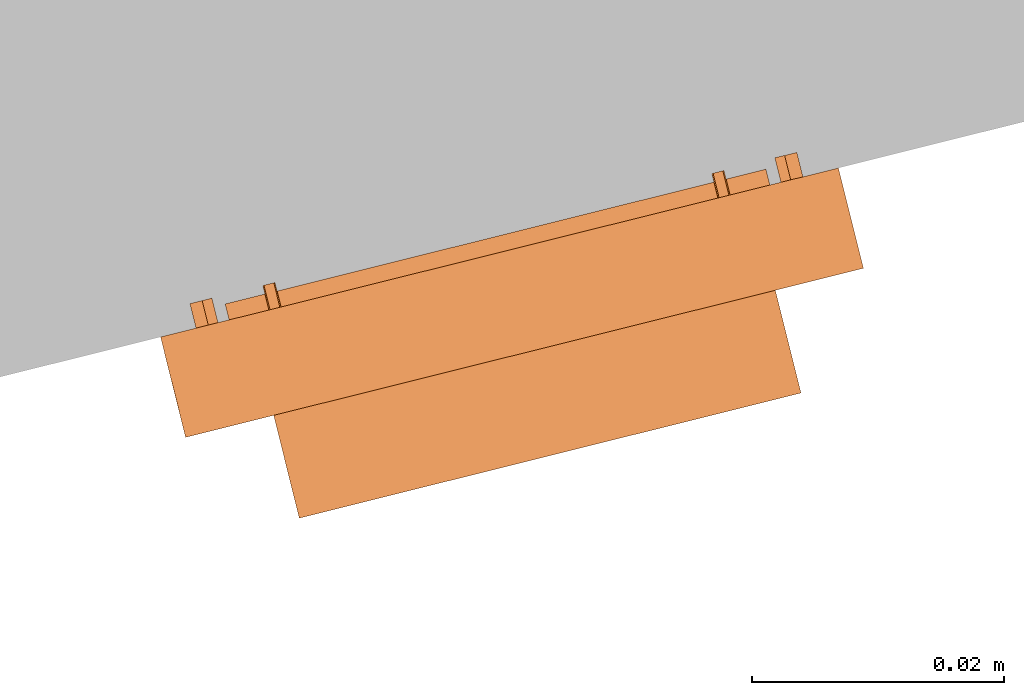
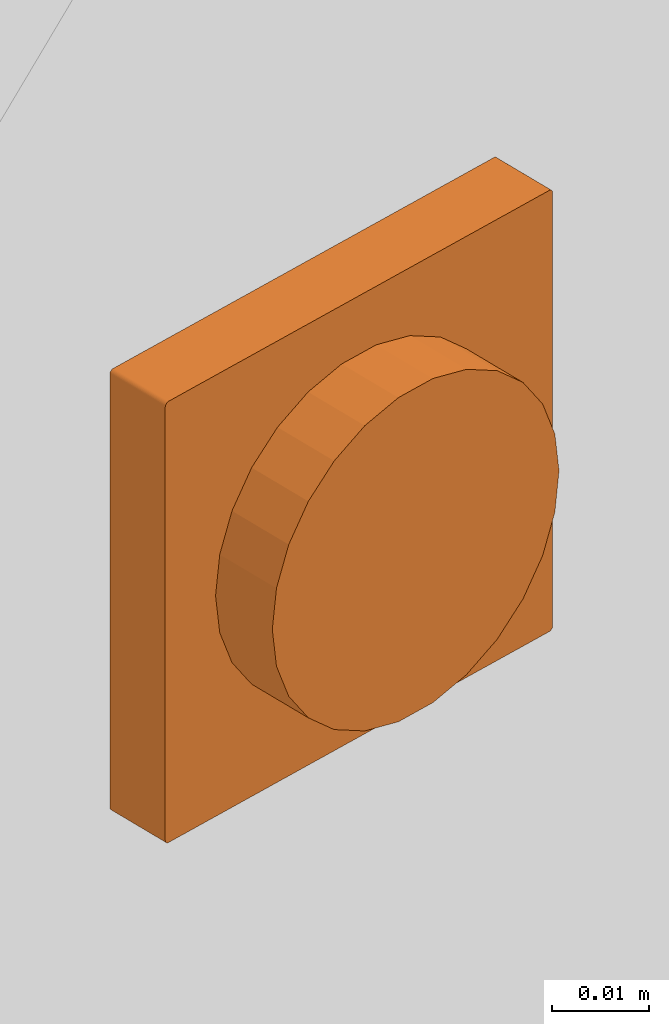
# One storey, part 2 of 2: 1 proxy.
"""IFC2X3 building model written with IfcOpenShell, lengths in metres."""

from ifc_helpers import new_model, entity, si_unit, converted_unit, derived_unit, direction, frame, frame_2d, origin, origin_2d_with_axis, place, context, subcontext, project, spatial, polyline, circle_curve, parameter, trimmed, segment, composite_curve, circle, outline, extrude, source, transform, mapped, material, type_object, type_shapes, element, save


model = new_model("IFC2X3")

# Units and contexts
model_context = context("Model", 3, precision=1e-05, world=origin(), true_north=direction((6.12303176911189e-17, 1.0)))
body_context = subcontext(model_context, "Body", "Model", "MODEL_VIEW")
ifc_project = project(units=[si_unit("LENGTHUNIT", "METRE"), si_unit("AREAUNIT", "SQUARE_METRE"), si_unit("VOLUMEUNIT", "CUBIC_METRE"), converted_unit("PLANEANGLEUNIT", "DEGREE", entity("IfcRatioMeasure", 0.0174532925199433), si_unit("PLANEANGLEUNIT", "RADIAN"), dimensions=[0, 0, 0, 0, 0, 0, 0]), si_unit("MASSUNIT", "GRAM", prefix="KILO"), si_unit("TIMEUNIT", "SECOND"), si_unit("FREQUENCYUNIT", "HERTZ"), si_unit("THERMODYNAMICTEMPERATUREUNIT", "DEGREE_CELSIUS"), derived_unit("THERMALTRANSMITTANCEUNIT", [(si_unit("MASSUNIT", "GRAM", prefix="KILO"), 1), (si_unit("THERMODYNAMICTEMPERATUREUNIT", "KELVIN"), -1), (si_unit("TIMEUNIT", "SECOND"), -3)]), derived_unit("VOLUMETRICFLOWRATEUNIT", [(si_unit("LENGTHUNIT", "METRE"), 3), (si_unit("TIMEUNIT", "SECOND"), -1)]), si_unit("ELECTRICCURRENTUNIT", "AMPERE"), si_unit("ELECTRICVOLTAGEUNIT", "VOLT"), si_unit("POWERUNIT", "WATT"), si_unit("FORCEUNIT", "NEWTON", prefix="KILO"), si_unit("ILLUMINANCEUNIT", "LUX"), si_unit("LUMINOUSFLUXUNIT", "LUMEN"), si_unit("LUMINOUSINTENSITYUNIT", "CANDELA"), derived_unit("USERDEFINED", [(si_unit("MASSUNIT", "GRAM", prefix="KILO"), -1), (si_unit("LENGTHUNIT", "METRE"), -2), (si_unit("TIMEUNIT", "SECOND"), 3), (si_unit("LUMINOUSFLUXUNIT", "LUMEN"), 1)]), derived_unit("LINEARVELOCITYUNIT", [(si_unit("LENGTHUNIT", "METRE"), 1), (si_unit("TIMEUNIT", "SECOND"), -1)]), si_unit("PRESSUREUNIT", "PASCAL"), derived_unit("USERDEFINED", [(si_unit("LENGTHUNIT", "METRE"), -2), (si_unit("MASSUNIT", "GRAM", prefix="KILO"), 1), (si_unit("TIMEUNIT", "SECOND"), -2)])], contexts=[model_context])

# Site, building, storey
site_placement = place(None, origin())
site = spatial("IfcSite", under=ifc_project, at=site_placement, Name="Default", CompositionType="ELEMENT")
building_placement = place(site_placement, origin())
building = spatial("IfcBuilding", under=site, at=building_placement, CompositionType="ELEMENT")
storey_placement = place(building_placement, origin())
storey = spatial("IfcBuildingStorey", under=building, at=storey_placement, Name="Ebene 0", CompositionType="ELEMENT", Elevation=0.0)

# Proxy
ifc_material = material(Name="White")
building_element_proxy_type = type_object("IfcBuildingElementProxyType", Name="GIRA_065203_ENG", PredefinedType="NOTDEFINED", material=ifc_material)
shared_shape = source(origin(), body_context, "Body", "SweptSolid", [
    extrude(outline(polyline([(0.0124903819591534, -0.0367577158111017), (0.0125960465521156, -0.0367946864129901), (0.0127072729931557, -0.0368072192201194), (0.0128184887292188, -0.0367946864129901), (0.0129241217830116, -0.0367577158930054), (0.0130188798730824, -0.0366981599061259), (0.0130980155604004, -0.0366190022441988), (0.0131575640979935, -0.0365242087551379), (0.0367577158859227, 0.0124903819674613), (0.0367946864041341, 0.0125960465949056), (0.0368072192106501, 0.012707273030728), (0.0367946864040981, 0.0128184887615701), (0.0367577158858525, 0.012924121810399), (0.0366981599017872, 0.0130188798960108), (0.0366190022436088, 0.0130980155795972), (0.0365242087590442, 0.0131575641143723), (-0.0124903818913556, 0.0367577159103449), (-0.0125960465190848, 0.036794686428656), (-0.0127072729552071, 0.0368072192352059), (-0.0128184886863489, 0.0367946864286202), (-0.0129241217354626, 0.0367577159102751), (-0.0130188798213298, 0.0366981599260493), (-0.0130980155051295, 0.0366190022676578), (-0.0131575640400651, 0.0365242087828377), (-0.0367577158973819, -0.0124903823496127), (-0.0367946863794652, -0.0125960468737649), (-0.036807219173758, -0.012707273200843), (-0.0367946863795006, -0.0128184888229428), (-0.0367577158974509, -0.0129241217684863), (-0.036698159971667, -0.0130188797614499), (-0.0366190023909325, -0.0130980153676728), (-0.0365242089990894, -0.0131575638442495), (0.0124903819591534, -0.0367577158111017)])), frame((0.0, 0.0, 0.00719999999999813), z_axis=(0.0, 0.0, 1.0), x_axis=(0.433823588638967, -0.900997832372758, 0.0)), (0.0, 0.0, 1.0), 0.000999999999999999),
    extrude(outline(composite_curve([segment(trimmed(circle_curve(frame_2d((0.0, -0.00392499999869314), x_axis=(1.0, 0.0)), 0.00990000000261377), [parameter(3.56222124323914e-13)], [parameter(52.4601073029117)], True, "PARAMETER"), True, "CONTINUOUS"), segment(polyline([(0.00603220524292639, 0.00392499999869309), (-0.00603220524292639, 0.00392499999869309)]), True, "CONTINUOUS"), segment(trimmed(circle_curve(frame_2d((0.0, -0.00392499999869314), x_axis=(1.0, 0.0)), 0.00990000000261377), [parameter(127.539892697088)], [parameter(180.0)], True, "PARAMETER"), True, "CONTINUOUS"), segment(trimmed(circle_curve(frame_2d((0.0, -0.00392499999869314), x_axis=(1.0, 0.0)), 0.00990000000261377), [parameter(180.0)], [parameter(360.0)], True, "PARAMETER"), True, "CONTINUOUS")], self_intersect=False), holes=[composite_curve([segment(trimmed(circle_curve(frame_2d((0.0, -0.00392500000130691), x_axis=(-1.0, 0.0)), 0.00525), [parameter(89.9999999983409)], [parameter(270.00000000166)], True, "PARAMETER"), False, "CONTINUOUS"), segment(trimmed(circle_curve(frame_2d((0.0, -0.00392500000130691), x_axis=(-1.0, 0.0)), 0.00525), [parameter(269.999999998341)], [parameter(90.0000000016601)], True, "PARAMETER"), False, "CONTINUOUS")], self_intersect=False)]), frame((0.0, -0.00392500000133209, 0.000199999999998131), z_axis=(0.0, 0.0, 1.0), x_axis=(-1.0, 0.0, 0.0)), (0.0, 0.0, 1.0), 0.006),
    extrude(outline(composite_curve([segment(trimmed(circle_curve(origin_2d_with_axis(), 0.0220999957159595), [parameter(0.0)], [parameter(180.0)], True, "PARAMETER"), True, "CONTINUOUS"), segment(trimmed(circle_curve(origin_2d_with_axis(), 0.0220999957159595), [parameter(180.0)], [parameter(360.0)], True, "PARAMETER"), True, "CONTINUOUS")], self_intersect=False), holes=[composite_curve([segment(trimmed(circle_curve(frame_2d((4.99625952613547e-09, 1.77921753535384e-09), x_axis=(-1.0, 0.0)), 0.00990000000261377), [parameter(127.539892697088)], [parameter(180.0)], True, "PARAMETER"), False, "CONTINUOUS"), segment(polyline([(0.00603221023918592, -0.0078499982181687), (0.0140000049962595, -0.0078499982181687)]), True, "CONTINUOUS"), segment(polyline([(0.0140000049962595, -0.0078499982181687), (0.0140000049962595, -0.0153999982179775)]), True, "CONTINUOUS"), segment(trimmed(circle_curve(frame_2d((0.0122500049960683, -0.0153999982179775), x_axis=(1.0, 0.0)), 0.00175000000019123), [parameter(269.999999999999)], [parameter(360.0)], True, "PARAMETER"), False, "CONTINUOUS"), segment(polyline([(0.0122500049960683, -0.017149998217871), (0.0068000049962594, -0.017149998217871)]), True, "CONTINUOUS"), segment(polyline([(0.0068000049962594, -0.017149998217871), (0.0068000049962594, -0.0181499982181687)]), True, "CONTINUOUS"), segment(polyline([(0.0068000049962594, -0.0181499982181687), (-0.000999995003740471, -0.0181499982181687)]), True, "CONTINUOUS"), segment(polyline([(-0.000999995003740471, -0.0181499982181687), (-0.000999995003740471, -0.0171499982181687)]), True, "CONTINUOUS"), segment(polyline([(-0.000999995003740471, -0.0171499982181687), (-0.0122499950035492, -0.0171499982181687)]), True, "CONTINUOUS"), segment(trimmed(circle_curve(frame_2d((-0.0122499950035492, -0.0153999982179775), x_axis=(1.0, 0.0)), 0.00175000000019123), [parameter(180.0)], [parameter(269.999999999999)], True, "PARAMETER"), False, "CONTINUOUS"), segment(polyline([(-0.0139999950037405, -0.0153999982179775), (-0.0139999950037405, -0.0078499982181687)]), True, "CONTINUOUS"), segment(polyline([(-0.0139999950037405, -0.0078499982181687), (-0.00603220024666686, -0.0078499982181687)]), True, "CONTINUOUS"), segment(trimmed(circle_curve(frame_2d((4.99625952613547e-09, 1.77921753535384e-09), x_axis=(-1.0, 0.0)), 0.00990000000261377), [parameter(3.05333249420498e-13)], [parameter(52.4601073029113)], True, "PARAMETER"), False, "CONTINUOUS"), segment(trimmed(circle_curve(frame_2d((4.99625952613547e-09, 1.77921753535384e-09), x_axis=(-1.0, 0.0)), 0.00990000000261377), [parameter(180.0)], [parameter(0.0)], True, "PARAMETER"), False, "CONTINUOUS")], self_intersect=False), composite_curve([segment(trimmed(circle_curve(frame_2d((0.0050000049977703, 0.0185000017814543), x_axis=(1.0, 0.0)), 0.00200000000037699), [parameter(180.0)], [parameter(360.0)], True, "PARAMETER"), False, "CONTINUOUS"), segment(trimmed(circle_curve(frame_2d((0.0050000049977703, 0.0185000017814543), x_axis=(1.0, 0.0)), 0.00200000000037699), [parameter(4.07110999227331e-13)], [parameter(180.0)], True, "PARAMETER"), False, "CONTINUOUS")], self_intersect=False)]), frame((-4.99624068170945e-09, -1.78185648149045e-09, -0.00130000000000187)), (0.0, 0.0, 1.0), 0.0075),
    extrude(outline(composite_curve([segment(trimmed(circle_curve(origin_2d_with_axis(), 0.00500000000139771), [parameter(306.869897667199)], [parameter(53.1301023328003)], True, "PARAMETER"), True, "CONTINUOUS"), segment(polyline([(0.00300000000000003, 0.00399999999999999), (-0.00300000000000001, 0.00400000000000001)]), True, "CONTINUOUS"), segment(trimmed(circle_curve(origin_2d_with_axis(), 0.00500000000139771), [parameter(126.8698976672)], [parameter(233.1301023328)], True, "PARAMETER"), True, "CONTINUOUS"), segment(polyline([(-0.00300000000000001, -0.00399999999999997), (0.00300000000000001, -0.00399999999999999)]), True, "CONTINUOUS")], self_intersect=False)), frame((0.0, 0.0, -0.000800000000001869), z_axis=(0.0, 0.0, 1.0), x_axis=(-1.0, 0.0, 0.0)), (0.0, 0.0, 1.0), 0.007),
    extrude(outline(composite_curve([segment(polyline([(-0.00049999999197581, -0.000399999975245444), (0.000499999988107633, -0.000399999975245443)]), True, "CONTINUOUS"), segment(trimmed(circle_curve(frame_2d((0.000800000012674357, 0.0), x_axis=(-1.0, 0.0)), 0.000499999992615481), [parameter(53.1300982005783)], [parameter(306.869900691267)], True, "PARAMETER"), True, "CONTINUOUS"), segment(polyline([(0.000499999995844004, 0.000399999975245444), (-0.000499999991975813, 0.000399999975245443)]), True, "CONTINUOUS"), segment(polyline([(-0.000499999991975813, 0.000399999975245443), (-0.00049999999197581, -0.000399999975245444)]), True, "CONTINUOUS")], self_intersect=False)), frame((0.0183499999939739, 0.0243000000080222, -0.00200000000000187), z_axis=(0.0, 0.0, 1.0), x_axis=(0.0, -1.0, 0.0)), (0.0, 0.0, 1.0), 0.0082),
    extrude(outline(composite_curve([segment(polyline([(-0.00049999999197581, -0.000399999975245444), (0.000499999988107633, -0.000399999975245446)]), True, "CONTINUOUS"), segment(trimmed(circle_curve(frame_2d((0.000800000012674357, 0.0), x_axis=(-1.0, 0.0)), 0.000499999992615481), [parameter(53.1300982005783)], [parameter(306.869900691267)], True, "PARAMETER"), True, "CONTINUOUS"), segment(polyline([(0.000499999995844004, 0.000399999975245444), (-0.000499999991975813, 0.000399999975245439)]), True, "CONTINUOUS"), segment(polyline([(-0.000499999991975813, 0.000399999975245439), (-0.00049999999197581, -0.000399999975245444)]), True, "CONTINUOUS")], self_intersect=False)), frame((-0.0183500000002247, 0.0243000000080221, -0.00200000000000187), z_axis=(0.0, 0.0, 1.0), x_axis=(0.0, -1.0, 0.0)), (0.0, 0.0, 1.0), 0.0082),
    extrude(outline(composite_curve([segment(polyline([(-0.000399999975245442, -0.000499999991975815), (0.000399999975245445, -0.000499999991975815)]), True, "CONTINUOUS"), segment(polyline([(0.000399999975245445, -0.000499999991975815), (0.000399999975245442, 0.000499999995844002)]), True, "CONTINUOUS"), segment(trimmed(circle_curve(frame_2d((0.0, 0.000800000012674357), x_axis=(0.0, -1.0)), 0.000499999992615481), [parameter(53.1300993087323)], [parameter(306.869901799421)], True, "PARAMETER"), True, "CONTINUOUS"), segment(polyline([(-0.000399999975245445, 0.000499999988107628), (-0.000399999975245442, -0.000499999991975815)]), True, "CONTINUOUS")], self_intersect=False)), frame((0.0183499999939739, -0.0243000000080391, -0.00200000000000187)), (0.0, 0.0, 1.0), 0.0082),
    extrude(outline(composite_curve([segment(polyline([(-0.000399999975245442, -0.000499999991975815), (0.000399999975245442, -0.000499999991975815)]), True, "CONTINUOUS"), segment(polyline([(0.000399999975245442, -0.000499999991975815), (0.000399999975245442, 0.000499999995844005)]), True, "CONTINUOUS"), segment(trimmed(circle_curve(frame_2d((0.0, 0.000800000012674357), x_axis=(0.0, -1.0)), 0.000499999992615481), [parameter(53.1300993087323)], [parameter(306.869901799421)], True, "PARAMETER"), True, "CONTINUOUS"), segment(polyline([(-0.000399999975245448, 0.000499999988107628), (-0.000399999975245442, -0.000499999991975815)]), True, "CONTINUOUS")], self_intersect=False)), frame((-0.0183500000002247, -0.024300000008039, -0.00200000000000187)), (0.0, 0.0, 1.0), 0.0082),
    extrude(outline(composite_curve([segment(polyline([(-0.000499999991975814, -0.000399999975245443), (0.000499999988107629, -0.000399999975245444)]), True, "CONTINUOUS"), segment(trimmed(circle_curve(frame_2d((0.000800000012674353, 0.0), x_axis=(-1.0, 0.0)), 0.000499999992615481), [parameter(53.1300982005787)], [parameter(306.869900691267)], True, "PARAMETER"), True, "CONTINUOUS"), segment(polyline([(0.000499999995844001, 0.000399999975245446), (-0.000499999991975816, 0.000399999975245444)]), True, "CONTINUOUS"), segment(polyline([(-0.000499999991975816, 0.000399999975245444), (-0.000499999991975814, -0.000399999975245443)]), True, "CONTINUOUS")], self_intersect=False)), frame((0.0243000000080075, -0.0183499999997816, -0.00200000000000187), z_axis=(0.0, 0.0, 1.0), x_axis=(-1.0, 0.0, 0.0)), (0.0, 0.0, 1.0), 0.0082),
    extrude(outline(composite_curve([segment(polyline([(-0.000499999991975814, -0.000399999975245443), (0.000499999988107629, -0.000399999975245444)]), True, "CONTINUOUS"), segment(trimmed(circle_curve(frame_2d((0.000800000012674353, 0.0), x_axis=(-1.0, 0.0)), 0.000499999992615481), [parameter(53.1300982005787)], [parameter(306.869900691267)], True, "PARAMETER"), True, "CONTINUOUS"), segment(polyline([(0.000499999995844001, 0.000399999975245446), (-0.000499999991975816, 0.000399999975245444)]), True, "CONTINUOUS"), segment(polyline([(-0.000499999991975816, 0.000399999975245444), (-0.000499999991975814, -0.000399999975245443)]), True, "CONTINUOUS")], self_intersect=False)), frame((0.0243000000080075, 0.0183500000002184, -0.00200000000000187), z_axis=(0.0, 0.0, 1.0), x_axis=(-1.0, 0.0, 0.0)), (0.0, 0.0, 1.0), 0.0082),
    extrude(outline(composite_curve([segment(polyline([(-0.000399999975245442, -0.000499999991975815), (0.000399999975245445, -0.000499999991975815)]), True, "CONTINUOUS"), segment(polyline([(0.000399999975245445, -0.000499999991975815), (0.000399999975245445, 0.000499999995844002)]), True, "CONTINUOUS"), segment(trimmed(circle_curve(frame_2d((0.0, 0.000800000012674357), x_axis=(0.0, -1.0)), 0.000499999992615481), [parameter(53.1300993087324)], [parameter(306.869901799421)], True, "PARAMETER"), True, "CONTINUOUS"), segment(polyline([(-0.000399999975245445, 0.000499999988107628), (-0.000399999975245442, -0.000499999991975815)]), True, "CONTINUOUS")], self_intersect=False)), frame((-0.024300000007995, -0.0183499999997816, -0.00200000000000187), z_axis=(0.0, 0.0, 1.0), x_axis=(0.0, -1.0, 0.0)), (0.0, 0.0, 1.0), 0.0082),
    extrude(outline(composite_curve([segment(polyline([(-0.000399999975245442, -0.000499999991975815), (0.000399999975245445, -0.000499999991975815)]), True, "CONTINUOUS"), segment(polyline([(0.000399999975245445, -0.000499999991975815), (0.000399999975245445, 0.000499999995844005)]), True, "CONTINUOUS"), segment(trimmed(circle_curve(frame_2d((0.0, 0.000800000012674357), x_axis=(0.0, -1.0)), 0.000499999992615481), [parameter(53.1300993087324)], [parameter(306.869901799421)], True, "PARAMETER"), True, "CONTINUOUS"), segment(polyline([(-0.000399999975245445, 0.000499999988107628), (-0.000399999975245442, -0.000499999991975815)]), True, "CONTINUOUS")], self_intersect=False)), frame((-0.0243000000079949, 0.0183500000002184, -0.00200000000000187), z_axis=(0.0, 0.0, 1.0), x_axis=(0.0, -1.0, 0.0)), (0.0, 0.0, 1.0), 0.0082),
    extrude(outline(polyline([(0.0124903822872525, -0.0367577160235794), (0.0125960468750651, -0.0367946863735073), (0.0127072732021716, -0.0368072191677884), (0.0128184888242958, -0.0367946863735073), (0.0129241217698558, -0.0367577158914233), (0.0130188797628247, -0.0366981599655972), (0.013098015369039, -0.0366190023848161), (0.0131575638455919, -0.0365242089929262), (0.0367577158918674, 0.0124903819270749), (0.0367946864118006, 0.0125960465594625), (0.0368072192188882, 0.0127072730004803), (0.0367946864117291, 0.0128184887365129), (0.0367577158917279, 0.0129241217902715), (0.0366981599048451, 0.0130188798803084), (0.0366190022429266, 0.0130980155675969), (0.0365242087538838, 0.0131575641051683), (-0.0124903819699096, 0.0367577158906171), (-0.0125960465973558, 0.0367946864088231), (-0.0127072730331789, 0.0368072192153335), (-0.0128184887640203, 0.0367946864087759), (-0.0129241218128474, 0.036757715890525), (-0.0130188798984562, 0.0366981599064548), (-0.0130980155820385, 0.0366190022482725), (-0.0131575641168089, 0.0365242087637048), (-0.036757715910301, -0.0124903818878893), (-0.0367946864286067, -0.0125960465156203), (-0.036807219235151, -0.0127072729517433), (-0.0367946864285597, -0.0128184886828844), (-0.0367577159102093, -0.0129241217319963), (-0.0366981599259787, -0.0130188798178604), (-0.0366190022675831, -0.0130980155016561), (-0.0365242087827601, -0.0131575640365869), (0.0124903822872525, -0.0367577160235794)]), holes=[polyline([(-0.0282598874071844, -0.0154719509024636), (-0.0349723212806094, -0.0122399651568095), (-0.0317403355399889, -0.0055275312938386), (-0.0304789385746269, -0.00613488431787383), (-0.0301318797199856, -0.00541408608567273), (-0.0313932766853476, -0.00480673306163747), (-0.0158190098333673, 0.0275390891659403), (-0.0145576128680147, 0.0269317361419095), (-0.0142105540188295, 0.0276525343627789), (-0.0154719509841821, 0.0282598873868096), (-0.0122399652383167, 0.0349723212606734), (-0.00552753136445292, 0.031740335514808), (-0.00613488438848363, 0.0304789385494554), (-0.00541408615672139, 0.0301318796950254), (-0.00480673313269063, 0.0313932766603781), (0.027539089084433, 0.0158190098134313), (0.0269317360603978, 0.0145576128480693), (0.027652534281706, 0.0142105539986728), (0.0282598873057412, 0.0154719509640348), (0.0349723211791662, 0.0122399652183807), (0.0317403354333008, 0.0055275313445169), (0.0304789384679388, 0.00613488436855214), (0.0301318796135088, 0.00541408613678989), (0.0313932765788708, 0.00480673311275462), (0.0158190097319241, -0.027539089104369), (0.0145576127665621, -0.0269317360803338), (0.0142105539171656, -0.027652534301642), (0.0154719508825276, -0.0282598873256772), (0.0122399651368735, -0.0349723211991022), (0.00552753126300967, -0.0317403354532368), (0.00613488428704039, -0.0304789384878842), (0.00541408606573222, -0.0301318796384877), (0.00480673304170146, -0.0313932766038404), (-0.0275390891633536, -0.0158190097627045), (-0.0269317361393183, -0.0145576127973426), (-0.0276525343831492, -0.0142105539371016), (-0.0282598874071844, -0.0154719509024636)])]), frame((0.0, 0.0, 0.0), z_axis=(0.0, 0.0, 1.0), x_axis=(-0.900997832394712, -0.433823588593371, 0.0)), (0.0, 0.0, 1.0), 0.0072),
    extrude(circle(Radius=0.0205000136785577, at=frame_2d((0.00152387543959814, -0.000611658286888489), x_axis=(1.0, 0.0))), frame((0.00152387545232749, -0.000611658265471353, 0.00819999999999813), z_axis=(0.0, 0.0, 1.0), x_axis=(-1.0, 0.0, 0.0)), (0.0, 0.0, 1.0), 0.0084),
])
type_shapes(building_element_proxy_type, [shared_shape])
proxy_placement = place(storey_placement, frame((2.43447435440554, 2.62932134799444, 1.53718148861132), z_axis=(0.241921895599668, -0.970295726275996, 0.0), x_axis=(0.970295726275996, 0.241921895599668, 0.0)))
element("IfcBuildingElementProxy", 1, at=proxy_placement, inside=storey, type_object=building_element_proxy_type, material=ifc_material, Name="GIRA_065203_ENG:GIRA_065203_ENG", ObjectType="GIRA_065203_ENG", context=body_context, shape_type="MappedRepresentation", body=[
    mapped(shared_shape, transform((0.0, 0.0, 0.0), scale=1.0)),
])

save(model, "model.ifc")
